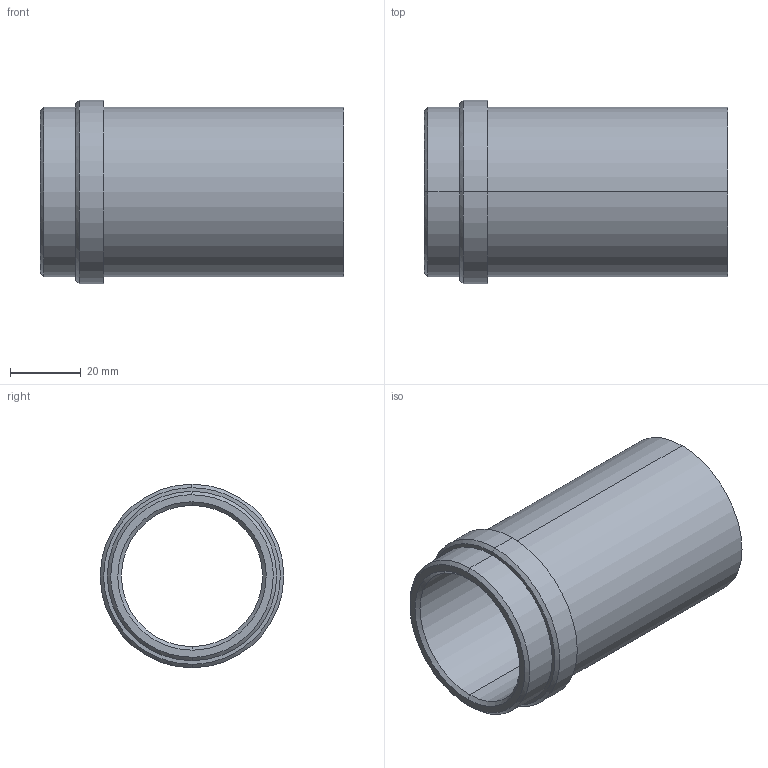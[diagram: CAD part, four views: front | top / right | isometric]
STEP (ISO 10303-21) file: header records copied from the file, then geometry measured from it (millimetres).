
FILE_DESCRIPTION(('CATIA V5 STEP Exchange'),'2;1');
FILE_NAME('C:\Users\Utente\Desktop\IO LAVORO\3D X SITO CF\X SITO\PLASTICA\358\358-40x86.stp','2021-04-09T14:54:26+00:00',('none'),('none'),'CATIA Version 5 Release 20 GA (IN-10)','CATIA V5 STEP AP203','none');
FILE_SCHEMA(('CONFIG_CONTROL_DESIGN'));
Length unit declared in the file: millimetre
Products named in the file (1): 358-40X86
Bounding box: 86 x 52 x 52 mm (x, y, z)
Volume: 49735.3 mm3; surface area: 25245.2 mm2
Topology: 1 solids, 1 shells, 20 faces, 64 edges, 48 vertices
Faces by surface type: cylinder 8, cone 6, plane 4, torus 2
Entity records: 906 total; most frequent: CARTESIAN_POINT 301, ORIENTED_EDGE 128, DIRECTION 92, EDGE_CURVE 64, AXIS2_PLACEMENT_3D 59, VERTEX_POINT 48, CIRCLE 38, EDGE_LOOP 24
